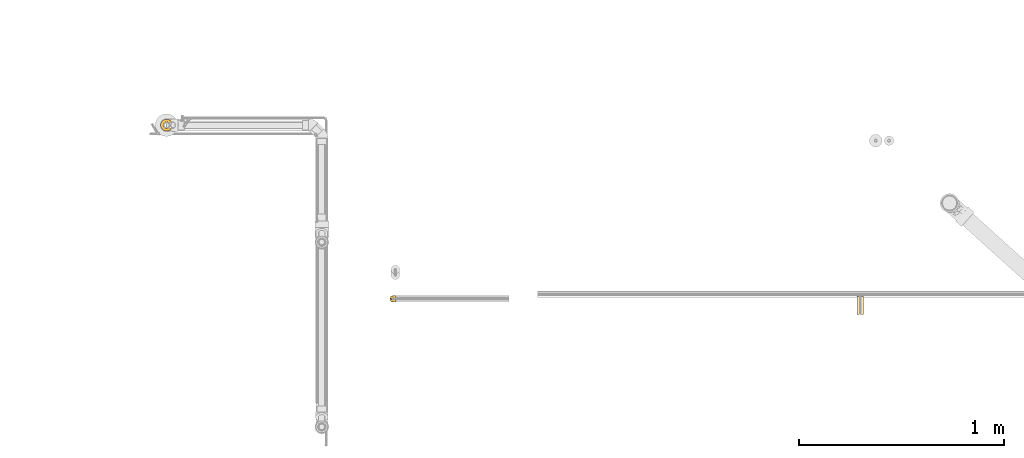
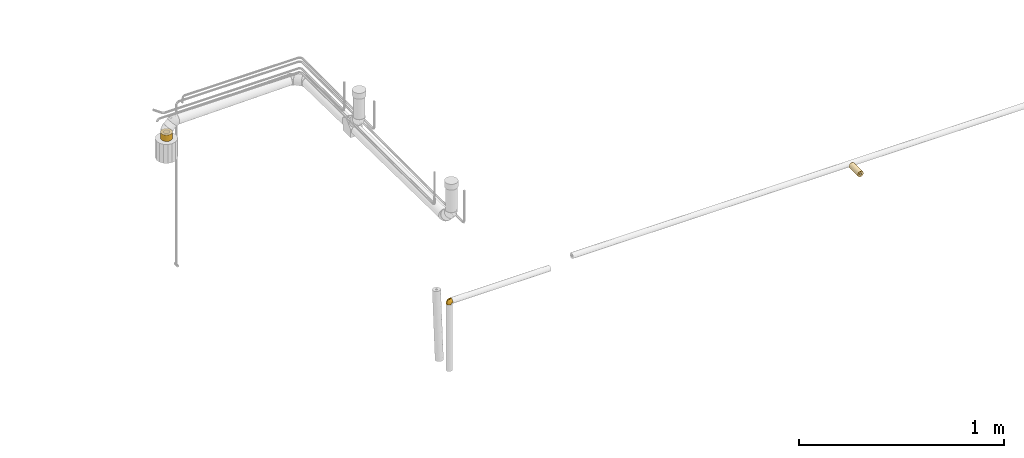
# One storey, part 6 of 108: 3 coverings.
"""IFC2X3 building model written with IfcOpenShell, lengths in millimetres."""

from ifc_helpers import new_model, entity, si_unit, converted_unit, derived_unit, direction, frame, origin_with_axes, origin_2d_with_axis, place, context, subcontext, project, spatial, hollow_circle, extrude, open_shell, surface_model, source, transform, mapped, element, save


model = new_model("IFC2X3")

# Units and contexts
model_context = context("Model", 3, precision=0.01, world=frame((0.0, 4.29681676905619e-09, 0.0)), true_north=direction((4.01073788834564e-13, 1.0)))
plan_context = context("Plan", 3, precision=0.01, world=frame((0.0, 4.29681676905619e-09, 0.0)), true_north=direction((4.01073788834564e-13, 1.0)))
body_context = subcontext(model_context, "Body", "Model", "MODEL_VIEW")
ifc_project = project(units=[converted_unit("PLANEANGLEUNIT", "DEGREE", entity("IfcPositiveLengthMeasure", 0.0174532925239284), si_unit("PLANEANGLEUNIT", "RADIAN"), dimensions=[0, 0, 0, 0, 0, 0, 0]), si_unit("AREAUNIT", "SQUARE_METRE"), si_unit("LENGTHUNIT", "METRE", prefix="MILLI"), si_unit("MASSUNIT", "GRAM", prefix="KILO"), si_unit("POWERUNIT", "WATT"), si_unit("PRESSUREUNIT", "PASCAL", prefix="KILO"), si_unit("FORCEUNIT", "NEWTON", prefix="KILO"), si_unit("ELECTRICVOLTAGEUNIT", "VOLT"), si_unit("ELECTRICCURRENTUNIT", "AMPERE"), si_unit("THERMODYNAMICTEMPERATUREUNIT", "DEGREE_CELSIUS"), si_unit("TIMEUNIT", "SECOND"), si_unit("VOLUMEUNIT", "CUBIC_METRE"), derived_unit("LINEARVELOCITYUNIT", [(si_unit("LENGTHUNIT", "METRE"), 1), (si_unit("TIMEUNIT", "SECOND"), -1)]), derived_unit("VOLUMETRICFLOWRATEUNIT", [(si_unit("VOLUMEUNIT", "CUBIC_METRE"), 1), (si_unit("TIMEUNIT", "SECOND"), -1)]), derived_unit("THERMALTRANSMITTANCEUNIT", [(si_unit("POWERUNIT", "WATT"), 1), (si_unit("THERMODYNAMICTEMPERATUREUNIT", "KELVIN"), -1), (si_unit("AREAUNIT", "SQUARE_METRE"), -1)]), derived_unit("SOUNDPRESSUREUNIT", [(si_unit("PRESSUREUNIT", "PASCAL"), 1)])], contexts=[model_context, plan_context])

# Site, building, storey
site_placement = place(None, frame((0.0, -4.29681676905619e-09, 0.0), z_axis=(0.0, 0.0, 1.0), x_axis=(1.0, 0.0, 0.0)))
site = spatial("IfcSite", under=ifc_project, at=site_placement, CompositionType="ELEMENT")
building_placement = place(site_placement, frame((0.0, 4.29681676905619e-09, 0.0), z_axis=(0.0, 0.0, 1.0), x_axis=(1.0, 0.0, 0.0)))
building = spatial("IfcBuilding", under=site, at=building_placement, Name="mc-building", CompositionType="ELEMENT")
storey_placement = place(building_placement, frame((0.0, 0.0, 210200.0), z_axis=(0.0, 0.0, 1.0), x_axis=(1.0, 0.0, 0.0)))
storey = spatial("IfcBuildingStorey", under=building, at=storey_placement, Name="Nivå F - 0,7 m", CompositionType="ELEMENT", Elevation=210200.0)

# Coverings
shared_shape_1 = source(origin_with_axes(), body_context, "Body", "SweptSolid", [
    extrude(hollow_circle(Radius=29.0, WallThickness=13.0, at=origin_2d_with_axis()), frame((0.0, 0.0, 0.0), z_axis=(1.0, 0.0, 0.0), x_axis=(0.0, 1.0, 0.0)), (0.0, 0.0, 1.0), 37.9),
])
covering_1_placement = place(storey_placement, frame((330364.34908, 462127.61957, 120.219459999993), z_axis=(0.0, -1.0, 0.0), x_axis=(0.0, 0.0, 1.0)))
element("IfcCovering", 1, at=covering_1_placement, inside=storey, Name="BI17T - Cellegummi 13 mm SPV fett", PredefinedType="INSULATION", context=body_context, shape_type="MappedRepresentation", body=[
    mapped(shared_shape_1, transform((0.0, 0.0, 0.0), scale=1.0)),
])
shared_shape_2 = source(origin_with_axes(), body_context, "Body", "SurfaceModel", [
    surface_model("IfcShellBasedSurfaceModel", [(-12.0, -13.85641, -8.0), (-5.03247, -13.85987, -6.12293), (-12.0, -15.45481, -4.1411), (-12.0, -4.1411, -15.45481), (-12.0, 0.0, -16.0), (-9.76246, 0.92682, -16.0), (-8.00733, -5.67765, -14.78207), (-12.0, -8.0, -13.85641), (-7.54784, -2.39756, -15.70267), (-3.63176, -4.07524, -14.78207), (-5.63604, 2.63604, -16.0), (-4.79906, -1.31711, -15.689), (-7.75736, 1.75736, -16.0), (-0.69336, -6.92814, -12.45141), (1.52128, -1.94633, -14.17291), (4.61844, -4.34796, -11.31587), (-1.40197, -13.58592, -3.11424), (2.0, -12.24871, 0.0), (-5.0, -14.12436, 0.0), (14.41429, 12.0, -6.94466), (15.59844, 12.0, -3.56211), (14.24408, 5.23741, -5.28665), (-6.34415, -8.99159, -12.69365), (-12.0, -11.31371, -11.31371), (-7.65622, -12.3086, -9.74018), (-2.45593, -10.7747, -9.74018), (4.73569, 7.688, -15.1029), (1.86313, 3.17522, -15.37346), (-1.85364, 7.52492, -16.0), (6.93982, 12.0, -14.41662), (3.5583, 12.0, -15.59931), (-0.92682, 9.76246, -16.0), (8.57767, 1.04585, -11.31574), (10.57428, 6.1836, -11.31587), (11.39922, 1.74937, -8.51502), (6.78659, 3.77012, -13.54906), (8.13639, 8.10223, -13.54906), (13.08049, 7.14532, -8.51502), (-1.99047, -0.19664, -15.54754), (16.0, 12.0, 0.0), (14.5162, 6.46237, 0.0), (11.3314, -2.18346, -4.66674), (12.50736, 12.0, -9.97828), (9.97351, 12.0, -12.51116), (12.24871, -2.0, 0.0), (7.70045, -7.39045, -3.36427), (7.12436, -7.12436, 0.0), (0.0, 12.0, -16.0), (5.19882, -0.42031, -13.08011), (-3.51472, 3.51472, -16.0), (-2.68418, 5.51982, -16.0), (3.59684, -7.87744, -8.94491), (-0.21662, -12.1545, -5.89255), (-6.77177, -15.21504, -3.01853), (8.0134, -4.27963, -8.09946), (3.28113, -11.1475, -2.89122), (-12.0, -16.0, 0.0), (4.19939, -9.54735, -5.68087), (6.78954, 3.76475, 13.54601), (4.73952, 7.68531, 15.10137), (1.86167, 3.16921, 15.37288), (-6.77176, -15.21504, 3.01854), (-5.03467, -13.86047, 6.12293), (-0.21747, -12.15431, 5.89392), (-2.4617, -10.77712, 9.74018), (-7.65963, -12.30921, 9.74018), (5.20201, -0.42642, 13.07577), (1.52419, -1.94826, 14.17113), (3.56211, 12.0, 15.59844), (-0.92682, 9.76246, 16.0), (-1.98921, -0.19819, 15.54705), (-4.92147, -1.01505, 15.75034), (-3.63176, -4.07524, 14.78207), (8.58107, 1.04357, 11.31167), (10.57805, 6.18096, 11.31155), (-12.0, -11.31371, 11.31371), (-6.34594, -8.99207, 12.69365), (-12.0, -8.0, 13.85641), (-12.0, -13.85641, 8.0), (-12.0, -15.45481, 4.1411), (11.40021, 1.74404, 8.51016), (13.083, 7.14222, 8.51016), (-8.00733, -5.67765, 14.78207), (-12.0, -4.1411, 15.45481), (8.1408, 8.09946, 13.54601), (9.97828, 12.0, 12.50736), (-0.69598, -6.93177, 12.44997), (11.33564, -2.17879, 4.66282), (14.24527, 5.23589, 5.28227), (-9.76246, 0.92682, 16.0), (-12.0, 0.0, 16.0), (12.51116, 12.0, 9.97351), (15.59931, 12.0, 3.5583), (14.41662, 12.0, 6.93982), (6.94466, 12.0, 14.41429), (-7.54784, -2.39756, 15.70267), (-7.75736, 1.75736, 16.0), (8.01191, -4.28703, 8.09348), (-1.85364, 7.52492, 16.0), (-2.68418, 5.51982, 16.0), (-3.51472, 3.51472, 16.0), (-5.63604, 2.63604, 16.0), (-1.402, -13.58584, 3.11468), (4.19965, -9.54643, 5.68239), (3.2823, -11.14659, 2.89182), (7.70289, -7.38757, 3.36557), (3.60197, -7.87677, 8.941), (4.61528, -4.35733, 11.31155), (0.0, 12.0, 16.0)], [open_shell([[[0, 1, 2]], [[3, 4, 5]], [[6, 7, 3]], [[6, 8, 9]], [[10, 11, 12]], [[13, 14, 15]], [[16, 17, 18]], [[19, 20, 21]], [[22, 23, 7]], [[23, 24, 0]], [[0, 24, 1]], [[22, 25, 24]], [[26, 27, 28]], [[29, 26, 30]], [[31, 30, 26]], [[32, 33, 34]], [[25, 22, 13]], [[35, 36, 33]], [[21, 37, 19]], [[29, 36, 26]], [[27, 14, 38]], [[20, 39, 40]], [[35, 33, 32]], [[34, 21, 41]], [[42, 19, 37]], [[33, 43, 42]], [[21, 44, 41]], [[37, 33, 42]], [[45, 44, 46]], [[34, 37, 21]], [[31, 47, 30]], [[36, 29, 43]], [[20, 40, 21]], [[27, 26, 35]], [[44, 21, 40]], [[32, 48, 35]], [[27, 49, 50]], [[6, 22, 7]], [[13, 15, 51]], [[25, 51, 52]], [[1, 16, 53]], [[15, 54, 51]], [[54, 34, 41]], [[46, 55, 45]], [[54, 15, 32]], [[16, 55, 17]], [[2, 53, 56]], [[33, 37, 34]], [[33, 36, 43]], [[26, 36, 35]], [[5, 8, 3]], [[22, 6, 9]], [[22, 9, 13]], [[14, 13, 9]], [[9, 8, 11]], [[48, 27, 35]], [[45, 54, 41]], [[55, 46, 17]], [[51, 54, 57]], [[8, 5, 12]], [[38, 10, 49]], [[3, 8, 6]], [[38, 9, 11]], [[12, 11, 8]], [[9, 38, 14]], [[53, 16, 18]], [[52, 16, 1]], [[56, 53, 18]], [[1, 53, 2]], [[54, 32, 34]], [[48, 15, 14]], [[15, 48, 32]], [[27, 48, 14]], [[52, 51, 57]], [[13, 51, 25]], [[22, 24, 23]], [[1, 24, 25]], [[25, 52, 1]], [[55, 52, 57]], [[52, 55, 16]], [[55, 57, 45]], [[54, 45, 57]], [[44, 45, 41]], [[26, 28, 31]], [[49, 27, 38]], [[50, 28, 27]], [[10, 38, 11]], [[58, 59, 60]], [[56, 18, 61]], [[62, 63, 64]], [[62, 64, 65]], [[66, 60, 67]], [[68, 69, 59]], [[70, 71, 72]], [[73, 74, 58]], [[75, 76, 77]], [[78, 79, 62]], [[74, 80, 81]], [[82, 83, 77]], [[84, 74, 85]], [[64, 86, 76]], [[87, 44, 88]], [[83, 89, 90]], [[74, 91, 85]], [[40, 88, 44]], [[75, 78, 65]], [[88, 92, 93]], [[40, 39, 92]], [[59, 94, 68]], [[94, 84, 85]], [[95, 96, 89]], [[73, 80, 74]], [[97, 87, 80]], [[75, 65, 76]], [[67, 72, 86]], [[81, 88, 93]], [[84, 59, 58]], [[60, 59, 98]], [[93, 91, 81]], [[88, 80, 87]], [[60, 98, 99]], [[40, 92, 88]], [[100, 60, 99]], [[70, 101, 71]], [[18, 17, 102]], [[102, 63, 62]], [[103, 104, 105]], [[106, 103, 97]], [[64, 106, 86]], [[82, 76, 72]], [[80, 73, 97]], [[46, 105, 104]], [[18, 102, 61]], [[74, 81, 91]], [[88, 81, 80]], [[59, 84, 94]], [[74, 84, 58]], [[76, 82, 77]], [[95, 83, 82]], [[67, 86, 107]], [[87, 105, 44]], [[72, 76, 86]], [[107, 73, 66]], [[60, 100, 70]], [[106, 97, 107]], [[105, 97, 103]], [[70, 72, 67]], [[83, 95, 89]], [[72, 95, 82]], [[101, 70, 100]], [[95, 71, 96]], [[60, 70, 67]], [[104, 102, 17]], [[61, 62, 79]], [[62, 61, 102]], [[56, 61, 79]], [[66, 73, 58]], [[97, 73, 107]], [[60, 66, 58]], [[107, 66, 67]], [[86, 106, 107]], [[63, 106, 64]], [[62, 65, 78]], [[76, 65, 64]], [[46, 104, 17]], [[63, 104, 103]], [[44, 105, 46]], [[97, 105, 87]], [[104, 63, 102]], [[63, 103, 106]], [[69, 68, 108]], [[69, 98, 59]], [[96, 71, 101]], [[72, 71, 95]]])]),
])
covering_2_placement = place(storey_placement, frame((331468.60023, 461280.75941, -725.773129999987), z_axis=(0.0, -1.0, 0.0), x_axis=(-1.0, 0.0, 0.0)))
element("IfcCovering", 2, at=covering_2_placement, inside=storey, Name="BI10T - Cellegummi 18-32 mm kalde rør", PredefinedType="INSULATION", context=body_context, shape_type="MappedRepresentation", body=[
    mapped(shared_shape_2, transform((0.0, 0.0, 0.0), scale=1.0)),
])
shared_shape_3 = source(origin_with_axes(), body_context, "Body", "SweptSolid", [
    extrude(hollow_circle(Radius=16.0, WallThickness=10.0, at=origin_2d_with_axis()), frame((0.0, 0.0, 0.0), z_axis=(1.0, 0.0, 0.0), x_axis=(0.0, 1.0, 0.0)), (0.0, 0.0, 1.0), 86.0),
])
covering_3_placement = place(storey_placement, frame((333744.63692, 461291.75941, -718.273129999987), z_axis=(0.0, 0.0, 1.0), x_axis=(0.0, -1.0, 0.0)))
element("IfcCovering", 3, at=covering_3_placement, inside=storey, Name="BI10T - Cellegummi 18-32 mm kalde rør", PredefinedType="INSULATION", context=body_context, shape_type="MappedRepresentation", body=[
    mapped(shared_shape_3, transform((0.0, 0.0, 0.0), scale=1.0)),
])

save(model, "model.ifc")
